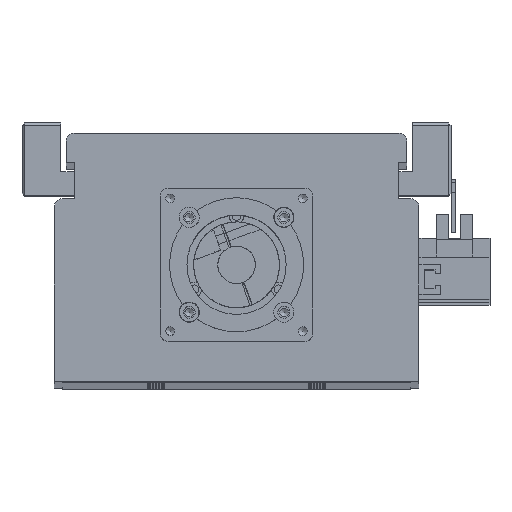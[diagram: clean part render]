
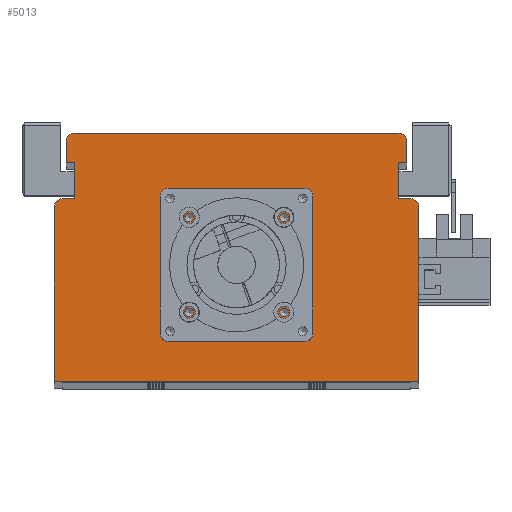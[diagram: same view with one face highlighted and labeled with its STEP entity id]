
A CAD part, top view. The second image highlights one B-rep face of the part: STEP entity #5013.
In plain terms, the highlighted planar face has unit normal (0, 0, 1).
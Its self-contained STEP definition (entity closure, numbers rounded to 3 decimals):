
#3571=CARTESIAN_POINT('',(19.321,61.5,1445.));
#3572=VERTEX_POINT('',#3571);
#3573=CARTESIAN_POINT('',(17.7,61.5,1445.));
#3574=DIRECTION('',(0.0,0.0,-1.0));
#3575=DIRECTION('',(1.0,0.0,0.0));
#3576=AXIS2_PLACEMENT_3D('',#3573,#3574,#3575);
#3577=CIRCLE('',#3576,1.621);
#3578=EDGE_CURVE('',#3572,#3572,#3577,.T.);
#3650=CARTESIAN_POINT('',(19.321,26.1,1445.));
#3651=VERTEX_POINT('',#3650);
#3652=CARTESIAN_POINT('',(17.7,26.1,1445.));
#3653=DIRECTION('',(0.0,0.0,-1.0));
#3654=DIRECTION('',(1.0,0.0,0.0));
#3655=AXIS2_PLACEMENT_3D('',#3652,#3653,#3654);
#3656=CIRCLE('',#3655,1.621);
#3657=EDGE_CURVE('',#3651,#3651,#3656,.T.);
#3729=CARTESIAN_POINT('',(-16.079,26.1,1445.));
#3730=VERTEX_POINT('',#3729);
#3731=CARTESIAN_POINT('',(-17.7,26.1,1445.));
#3732=DIRECTION('',(0.0,0.0,-1.0));
#3733=DIRECTION('',(1.0,0.0,0.0));
#3734=AXIS2_PLACEMENT_3D('',#3731,#3732,#3733);
#3735=CIRCLE('',#3734,1.621);
#3736=EDGE_CURVE('',#3730,#3730,#3735,.T.);
#3808=CARTESIAN_POINT('',(-16.079,61.5,1445.));
#3809=VERTEX_POINT('',#3808);
#3810=CARTESIAN_POINT('',(-17.7,61.5,1445.));
#3811=DIRECTION('',(0.0,0.0,-1.0));
#3812=DIRECTION('',(1.0,0.0,0.0));
#3813=AXIS2_PLACEMENT_3D('',#3810,#3811,#3812);
#3814=CIRCLE('',#3813,1.621);
#3815=EDGE_CURVE('',#3809,#3809,#3814,.T.);
#3849=CARTESIAN_POINT('',(26.5,43.8,1445.));
#3850=VERTEX_POINT('',#3849);
#3851=CARTESIAN_POINT('',(24.5,43.8,1445.));
#3852=DIRECTION('',(0.0,0.0,-1.0));
#3853=DIRECTION('',(1.0,0.0,0.0));
#3854=AXIS2_PLACEMENT_3D('',#3851,#3852,#3853);
#3855=CIRCLE('',#3854,2.0);
#3856=EDGE_CURVE('',#3850,#3850,#3855,.T.);
#3898=CARTESIAN_POINT('',(-22.5,43.8,1445.));
#3899=VERTEX_POINT('',#3898);
#3900=CARTESIAN_POINT('',(-24.5,43.8,1445.));
#3901=DIRECTION('',(0.0,0.0,-1.0));
#3902=DIRECTION('',(1.0,0.0,0.0));
#3903=AXIS2_PLACEMENT_3D('',#3900,#3901,#3902);
#3904=CIRCLE('',#3903,2.0);
#3905=EDGE_CURVE('',#3899,#3899,#3904,.T.);
#4829=CARTESIAN_POINT('',(21.05,43.8,1445.));
#4830=VERTEX_POINT('',#4829);
#4831=CARTESIAN_POINT('',(0.0,43.8,1445.));
#4832=DIRECTION('',(0.0,0.0,-1.0));
#4833=DIRECTION('',(-1.0,0.0,0.0));
#4834=AXIS2_PLACEMENT_3D('',#4831,#4832,#4833);
#4835=CIRCLE('',#4834,21.05);
#4836=EDGE_CURVE('',#4830,#4830,#4835,.T.);
#4853=CARTESIAN_POINT('',(0.,29.533,1445.));
#4854=DIRECTION('',(0.0,0.0,1.0));
#4855=DIRECTION('',(1.0,0.0,0.0));
#4856=AXIS2_PLACEMENT_3D('',#4853,#4854,#4855);
#4857=PLANE('',#4856);
#4858=CARTESIAN_POINT('',(-65.,68.5,1445.));
#4859=VERTEX_POINT('',#4858);
#4860=CARTESIAN_POINT('',(-60.5,68.5,1445.0));
#4861=VERTEX_POINT('',#4860);
#4862=CARTESIAN_POINT('',(-65.,68.5,1445.));
#4863=DIRECTION('',(1.0,0.0,0.0));
#4864=VECTOR('',#4863,4.5);
#4865=LINE('',#4862,#4864);
#4866=EDGE_CURVE('',#4859,#4861,#4865,.T.);
#4867=ORIENTED_EDGE('',*,*,#4866,.F.);
#4868=CARTESIAN_POINT('',(-68.,65.5,1445.));
#4869=VERTEX_POINT('',#4868);
#4870=CARTESIAN_POINT('',(-65.,65.5,1445.0));
#4871=DIRECTION('',(0.0,0.0,-1.0));
#4872=DIRECTION('',(0.0,1.0,0.0));
#4873=AXIS2_PLACEMENT_3D('',#4870,#4871,#4872);
#4874=CIRCLE('',#4873,3.);
#4875=EDGE_CURVE('',#4869,#4859,#4874,.T.);
#4876=ORIENTED_EDGE('',*,*,#4875,.F.);
#4877=CARTESIAN_POINT('',(-68.0,0.5,1445.));
#4878=VERTEX_POINT('',#4877);
#4879=CARTESIAN_POINT('',(-68.0,0.5,1445.));
#4880=DIRECTION('',(0.0,1.0,0.0));
#4881=VECTOR('',#4880,65.0);
#4882=LINE('',#4879,#4881);
#4883=EDGE_CURVE('',#4878,#4869,#4882,.T.);
#4884=ORIENTED_EDGE('',*,*,#4883,.F.);
#4885=CARTESIAN_POINT('',(68.0,0.5,1445.));
#4886=VERTEX_POINT('',#4885);
#4887=CARTESIAN_POINT('',(68.0,0.5,1445.));
#4888=DIRECTION('',(-1.0,0.0,0.0));
#4889=VECTOR('',#4888,136.0);
#4890=LINE('',#4887,#4889);
#4891=EDGE_CURVE('',#4886,#4878,#4890,.T.);
#4892=ORIENTED_EDGE('',*,*,#4891,.F.);
#4893=CARTESIAN_POINT('',(68.0,65.5,1445.));
#4894=VERTEX_POINT('',#4893);
#4895=CARTESIAN_POINT('',(68.0,65.5,1445.));
#4896=DIRECTION('',(0.0,-1.0,0.0));
#4897=VECTOR('',#4896,65.0);
#4898=LINE('',#4895,#4897);
#4899=EDGE_CURVE('',#4894,#4886,#4898,.T.);
#4900=ORIENTED_EDGE('',*,*,#4899,.F.);
#4901=CARTESIAN_POINT('',(65.,68.5,1445.));
#4902=VERTEX_POINT('',#4901);
#4903=CARTESIAN_POINT('',(65.,65.5,1445.0));
#4904=DIRECTION('',(0.0,0.0,-1.0));
#4905=DIRECTION('',(1.0,0.0,0.0));
#4906=AXIS2_PLACEMENT_3D('',#4903,#4904,#4905);
#4907=CIRCLE('',#4906,3.);
#4908=EDGE_CURVE('',#4902,#4894,#4907,.T.);
#4909=ORIENTED_EDGE('',*,*,#4908,.F.);
#4910=CARTESIAN_POINT('',(60.5,68.5,1445.0));
#4911=VERTEX_POINT('',#4910);
#4912=CARTESIAN_POINT('',(60.5,68.5,1445.0));
#4913=DIRECTION('',(1.0,0.0,0.0));
#4914=VECTOR('',#4913,4.5);
#4915=LINE('',#4912,#4914);
#4916=EDGE_CURVE('',#4911,#4902,#4915,.T.);
#4917=ORIENTED_EDGE('',*,*,#4916,.F.);
#4918=CARTESIAN_POINT('',(60.5,82.,1445.0));
#4919=VERTEX_POINT('',#4918);
#4920=CARTESIAN_POINT('',(60.5,82.,1445.0));
#4921=DIRECTION('',(0.0,-1.0,0.0));
#4922=VECTOR('',#4921,13.5);
#4923=LINE('',#4920,#4922);
#4924=EDGE_CURVE('',#4919,#4911,#4923,.T.);
#4925=ORIENTED_EDGE('',*,*,#4924,.F.);
#4926=CARTESIAN_POINT('',(63.5,82.,1445.0));
#4927=VERTEX_POINT('',#4926);
#4928=CARTESIAN_POINT('',(63.5,82.,1445.0));
#4929=DIRECTION('',(-1.0,0.0,0.0));
#4930=VECTOR('',#4929,3.0);
#4931=LINE('',#4928,#4930);
#4932=EDGE_CURVE('',#4927,#4919,#4931,.T.);
#4933=ORIENTED_EDGE('',*,*,#4932,.F.);
#4934=CARTESIAN_POINT('',(63.5,90.0,1445.0));
#4935=VERTEX_POINT('',#4934);
#4936=CARTESIAN_POINT('',(63.5,90.0,1445.0));
#4937=DIRECTION('',(0.0,-1.0,0.0));
#4938=VECTOR('',#4937,8.);
#4939=LINE('',#4936,#4938);
#4940=EDGE_CURVE('',#4935,#4927,#4939,.T.);
#4941=ORIENTED_EDGE('',*,*,#4940,.F.);
#4942=CARTESIAN_POINT('',(60.5,93.,1445.0));
#4943=VERTEX_POINT('',#4942);
#4944=CARTESIAN_POINT('',(60.5,90.0,1445.0));
#4945=DIRECTION('',(0.0,0.0,-1.0));
#4946=DIRECTION('',(1.0,0.0,0.0));
#4947=AXIS2_PLACEMENT_3D('',#4944,#4945,#4946);
#4948=CIRCLE('',#4947,3.);
#4949=EDGE_CURVE('',#4943,#4935,#4948,.T.);
#4950=ORIENTED_EDGE('',*,*,#4949,.F.);
#4951=CARTESIAN_POINT('',(-60.5,93.0,1445.0));
#4952=VERTEX_POINT('',#4951);
#4953=CARTESIAN_POINT('',(-60.5,93.0,1445.0));
#4954=DIRECTION('',(1.0,0.0,0.0));
#4955=VECTOR('',#4954,121.0);
#4956=LINE('',#4953,#4955);
#4957=EDGE_CURVE('',#4952,#4943,#4956,.T.);
#4958=ORIENTED_EDGE('',*,*,#4957,.F.);
#4959=CARTESIAN_POINT('',(-63.5,90.0,1445.0));
#4960=VERTEX_POINT('',#4959);
#4961=CARTESIAN_POINT('',(-60.5,90.0,1445.0));
#4962=DIRECTION('',(0.0,0.0,-1.0));
#4963=DIRECTION('',(0.0,1.0,0.0));
#4964=AXIS2_PLACEMENT_3D('',#4961,#4962,#4963);
#4965=CIRCLE('',#4964,3.);
#4966=EDGE_CURVE('',#4960,#4952,#4965,.T.);
#4967=ORIENTED_EDGE('',*,*,#4966,.F.);
#4968=CARTESIAN_POINT('',(-63.5,82.,1445.0));
#4969=VERTEX_POINT('',#4968);
#4970=CARTESIAN_POINT('',(-63.5,82.,1445.0));
#4971=DIRECTION('',(0.0,1.0,0.0));
#4972=VECTOR('',#4971,8.);
#4973=LINE('',#4970,#4972);
#4974=EDGE_CURVE('',#4969,#4960,#4973,.T.);
#4975=ORIENTED_EDGE('',*,*,#4974,.F.);
#4976=CARTESIAN_POINT('',(-60.5,82.,1445.0));
#4977=VERTEX_POINT('',#4976);
#4978=CARTESIAN_POINT('',(-60.5,82.,1445.0));
#4979=DIRECTION('',(-1.0,0.0,0.0));
#4980=VECTOR('',#4979,3.);
#4981=LINE('',#4978,#4980);
#4982=EDGE_CURVE('',#4977,#4969,#4981,.T.);
#4983=ORIENTED_EDGE('',*,*,#4982,.F.);
#4984=CARTESIAN_POINT('',(-60.5,68.5,1445.0));
#4985=DIRECTION('',(0.0,1.0,0.0));
#4986=VECTOR('',#4985,13.5);
#4987=LINE('',#4984,#4986);
#4988=EDGE_CURVE('',#4861,#4977,#4987,.T.);
#4989=ORIENTED_EDGE('',*,*,#4988,.F.);
#4990=EDGE_LOOP('',(#4867,#4876,#4884,#4892,#4900,#4909,#4917,#4925,#4933,#4941,#4950,#4958,#4967,#4975,#4983,#4989));
#4991=FACE_OUTER_BOUND('',#4990,.T.);
#4992=ORIENTED_EDGE('',*,*,#3578,.T.);
#4993=EDGE_LOOP('',(#4992));
#4994=FACE_BOUND('',#4993,.T.);
#4995=ORIENTED_EDGE('',*,*,#3657,.T.);
#4996=EDGE_LOOP('',(#4995));
#4997=FACE_BOUND('',#4996,.T.);
#4998=ORIENTED_EDGE('',*,*,#3736,.T.);
#4999=EDGE_LOOP('',(#4998));
#5000=FACE_BOUND('',#4999,.T.);
#5001=ORIENTED_EDGE('',*,*,#3815,.T.);
#5002=EDGE_LOOP('',(#5001));
#5003=FACE_BOUND('',#5002,.T.);
#5004=ORIENTED_EDGE('',*,*,#3856,.T.);
#5005=EDGE_LOOP('',(#5004));
#5006=FACE_BOUND('',#5005,.T.);
#5007=ORIENTED_EDGE('',*,*,#3905,.T.);
#5008=EDGE_LOOP('',(#5007));
#5009=FACE_BOUND('',#5008,.T.);
#5010=ORIENTED_EDGE('',*,*,#4836,.T.);
#5011=EDGE_LOOP('',(#5010));
#5012=FACE_BOUND('',#5011,.T.);
#5013=ADVANCED_FACE('',(#4991,#4994,#4997,#5000,#5003,#5006,#5009,#5012),#4857,.T.);
